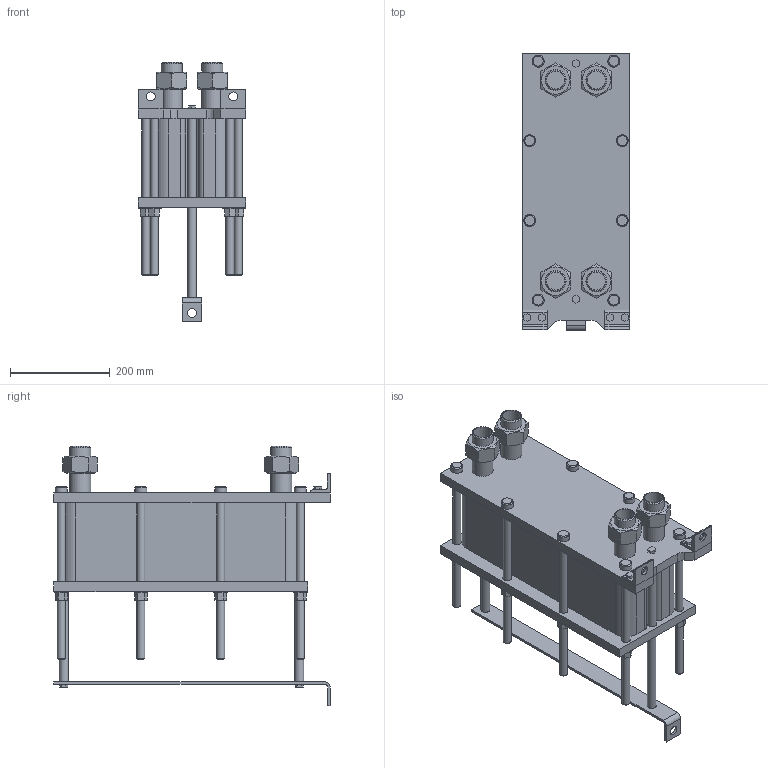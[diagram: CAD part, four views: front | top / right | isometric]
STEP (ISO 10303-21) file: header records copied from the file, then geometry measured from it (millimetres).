
FILE_DESCRIPTION(/* description */ (''),/* implementation_level */ '2;1');
FILE_NAME(/* name */ 'C:\Users\zhuro\Desktop\ENCO\TO\ЭН-004\ЭН-0,5-004-51-1.stp',/* time_stamp */ '2022-06-06T10:47:10+03:00',/* author */ ('zhuro'),/* organization */ (''),/* preprocessor_version */ 'ST-DEVELOPER v18.1',/* originating_system */ 'Autodesk Inventor 2022',/* authorisation */ '');
FILE_SCHEMA (('AUTOMOTIVE_DESIGN { 1 0 10303 214 3 1 1 }'));
Length unit declared in the file: millimetre
Products named in the file (1): ЭН-0,5-004-51-1
Bounding box: 216 x 555 x 521.8 mm (x, y, z)
Volume: 17439405.2 mm3; surface area: 1301281.3 mm2
Topology: 40 solids, 40 shells, 403 faces, 865 edges, 574 vertices
Faces by surface type: plane 272, cylinder 103, cone 28
Full cylindrical faces by diameter (mm): 10 x4, 16 x16, 18 x29, 20 x2, 24 x8, 28 x8, 36.3 x5, 42.3 x9
Entity records: 11137 total; most frequent: CARTESIAN_POINT 1939, DIRECTION 1879, ORIENTED_EDGE 1730, EDGE_CURVE 865, AXIS2_PLACEMENT_3D 658, VERTEX_POINT 574, LINE 563, VECTOR 563
